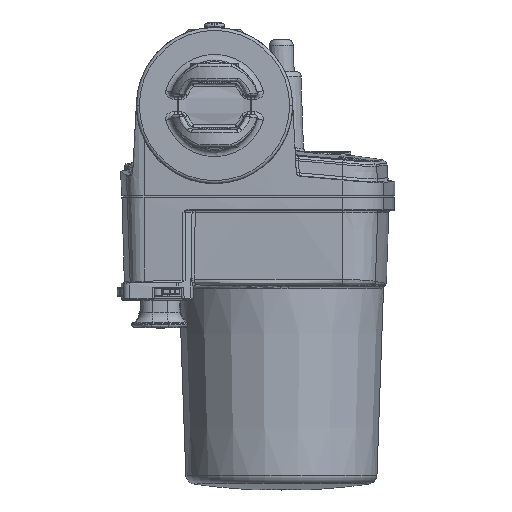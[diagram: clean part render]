
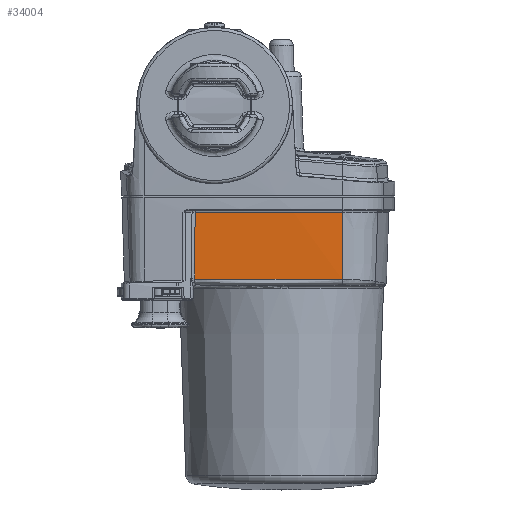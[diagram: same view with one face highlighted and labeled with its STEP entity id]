
A CAD part, top view. The second image highlights one B-rep face of the part: STEP entity #34004.
In plain terms, the highlighted conical face has half-angle 2 degrees and reference radius 597.589 mm.
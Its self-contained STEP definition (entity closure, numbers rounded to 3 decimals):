
#8822=CARTESIAN_POINT('',(-6.449,-35.483,
37.874));
#8851=CARTESIAN_POINT('',(-6.649,-57.739,
37.092));
#8853=CARTESIAN_POINT('',(5.,-35.483,-560.));
#8854=DIRECTION('',(0.,-1.,0.));
#8855=DIRECTION('',(0.063,0.,0.998));
#8856=AXIS2_PLACEMENT_3D('',#8853,#8854,#8855);
#8858=CARTESIAN_POINT('',(-6.649,-57.739,
37.092));
#8859=CARTESIAN_POINT('',(-6.374,-57.749,
37.097));
#8860=CARTESIAN_POINT('',(-5.827,-57.768,
37.107));
#8861=CARTESIAN_POINT('',(-5.013,-57.795,
37.12));
#8862=CARTESIAN_POINT('',(-4.207,-57.819,
37.132));
#8863=CARTESIAN_POINT('',(-3.408,-57.842,
37.143));
#8864=CARTESIAN_POINT('',(-2.615,-57.863,
37.153));
#8865=CARTESIAN_POINT('',(-1.829,-57.883,
37.162));
#8866=CARTESIAN_POINT('',(-1.049,-57.901,
37.17));
#8867=CARTESIAN_POINT('',(-0.274,-57.918,
37.177));
#8868=CARTESIAN_POINT('',(0.496,-57.933,
37.182));
#8869=CARTESIAN_POINT('',(1.26,-57.947,37.187));
#8870=CARTESIAN_POINT('',(2.02,-57.96,37.191));
#8871=CARTESIAN_POINT('',(2.775,-57.972,37.194));
#8872=CARTESIAN_POINT('',(3.526,-57.983,37.196));
#8873=CARTESIAN_POINT('',(4.274,-57.993,37.197));
#8874=CARTESIAN_POINT('',(5.017,-58.002,37.197));
#8875=CARTESIAN_POINT('',(5.758,-58.01,37.196));
#8876=CARTESIAN_POINT('',(6.496,-58.017,37.194));
#8877=CARTESIAN_POINT('',(7.23,-58.024,37.192));
#8878=CARTESIAN_POINT('',(7.962,-58.03,37.189));
#8879=CARTESIAN_POINT('',(8.692,-58.035,37.184));
#8880=CARTESIAN_POINT('',(9.42,-58.04,37.179));
#8881=CARTESIAN_POINT('',(10.146,-58.044,37.173));
#8882=CARTESIAN_POINT('',(10.87,-58.048,37.166));
#8883=CARTESIAN_POINT('',(11.593,-58.051,37.159));
#8884=CARTESIAN_POINT('',(12.314,-58.054,37.15));
#8885=CARTESIAN_POINT('',(13.035,-58.056,37.141));
#8886=CARTESIAN_POINT('',(13.754,-58.058,37.131));
#8887=CARTESIAN_POINT('',(14.472,-58.06,37.12));
#8888=CARTESIAN_POINT('',(15.19,-58.061,37.108));
#8889=CARTESIAN_POINT('',(15.907,-58.063,37.095));
#8890=CARTESIAN_POINT('',(16.624,-58.064,37.082));
#8891=CARTESIAN_POINT('',(17.34,-58.065,37.067));
#8892=CARTESIAN_POINT('',(18.056,-58.065,37.052));
#8893=CARTESIAN_POINT('',(18.772,-58.066,37.036));
#8894=CARTESIAN_POINT('',(19.487,-58.067,37.019));
#8895=CARTESIAN_POINT('',(20.203,-58.067,37.001));
#8896=CARTESIAN_POINT('',(20.918,-58.067,36.982));
#8897=CARTESIAN_POINT('',(21.633,-58.067,36.963));
#8898=CARTESIAN_POINT('',(22.348,-58.068,36.943));
#8899=CARTESIAN_POINT('',(23.063,-58.068,36.921));
#8900=CARTESIAN_POINT('',(23.778,-58.068,36.899));
#8901=CARTESIAN_POINT('',(24.493,-58.068,36.876));
#8902=CARTESIAN_POINT('',(25.208,-58.067,36.853));
#8903=CARTESIAN_POINT('',(25.922,-58.067,36.828));
#8904=CARTESIAN_POINT('',(26.637,-58.067,36.803));
#8905=CARTESIAN_POINT('',(27.352,-58.067,36.776));
#8906=CARTESIAN_POINT('',(28.068,-58.066,36.749));
#8907=CARTESIAN_POINT('',(28.783,-58.065,36.721));
#8908=CARTESIAN_POINT('',(29.499,-58.065,36.692));
#8909=CARTESIAN_POINT('',(30.214,-58.064,36.662));
#8910=CARTESIAN_POINT('',(30.93,-58.063,36.632));
#8911=CARTESIAN_POINT('',(31.647,-58.061,36.6));
#8912=CARTESIAN_POINT('',(32.364,-58.06,36.568));
#8913=CARTESIAN_POINT('',(33.082,-58.058,36.534));
#8914=CARTESIAN_POINT('',(33.801,-58.056,36.5));
#8915=CARTESIAN_POINT('',(34.52,-58.053,36.465));
#8916=CARTESIAN_POINT('',(35.241,-58.051,36.429));
#8917=CARTESIAN_POINT('',(35.963,-58.047,36.392));
#8918=CARTESIAN_POINT('',(36.686,-58.044,36.354));
#8919=CARTESIAN_POINT('',(37.411,-58.039,36.315));
#8920=CARTESIAN_POINT('',(38.138,-58.035,36.276));
#8921=CARTESIAN_POINT('',(38.867,-58.029,36.235));
#8922=CARTESIAN_POINT('',(39.598,-58.023,36.193));
#8923=CARTESIAN_POINT('',(40.332,-58.017,36.15));
#8924=CARTESIAN_POINT('',(41.069,-58.009,36.106));
#8925=CARTESIAN_POINT('',(41.808,-58.001,36.062));
#8926=CARTESIAN_POINT('',(42.303,-57.995,36.031));
#8927=CARTESIAN_POINT('',(42.551,-57.992,36.015));
#8929=CARTESIAN_POINT('',(-6.649,-57.739,
37.092));
#8930=CARTESIAN_POINT('',(-6.629,-55.459,
37.172));
#8931=CARTESIAN_POINT('',(-6.587,-50.771,
37.337));
#8932=CARTESIAN_POINT('',(-6.52,-43.442,
37.594));
#8933=CARTESIAN_POINT('',(-6.473,-38.188,
37.779));
#8934=CARTESIAN_POINT('',(-6.449,-35.483,
37.874));
#8994=DIRECTION('',(-0.002,-0.999,-0.035));
#8995=VECTOR('',#8994,22.523);
#8996=CARTESIAN_POINT('',(42.601,-35.483,36.8));
#8997=LINE('',#8996,#8995);
#17817=VERTEX_POINT('',#8851);
#17818=VERTEX_POINT('',#8927);
#17847=VERTEX_POINT('',#8822);
#17850=CARTESIAN_POINT('',(42.601,-35.483,
36.8));
#17851=VERTEX_POINT('',#17850);
#33991=CARTESIAN_POINT('',(5.,-46.775,-560.));
#33992=DIRECTION('',(0.,1.,0.));
#33993=DIRECTION('',(1.,0.,0.));
#33994=AXIS2_PLACEMENT_3D('',#33991,#33992,#33993);
#33995=CONICAL_SURFACE('',#33994,597.589,2.);
#33996=ORIENTED_EDGE('',*,*,#32902,.F.);
#33998=ORIENTED_EDGE('',*,*,#33997,.T.);
#34000=ORIENTED_EDGE('',*,*,#33999,.F.);
#34001=ORIENTED_EDGE('',*,*,#33983,.T.);
#34002=EDGE_LOOP('',(#33996,#33998,#34000,#34001));
#34003=FACE_OUTER_BOUND('',#34002,.F.);
#8857=CIRCLE('',#8856,597.983);
#8928=B_SPLINE_CURVE_WITH_KNOTS('',3,(#8858,#8859,#8860,#8861,#8862,#8863,#8864,
#8865,#8866,#8867,#8868,#8869,#8870,#8871,#8872,#8873,#8874,#8875,#8876,#8877,
#8878,#8879,#8880,#8881,#8882,#8883,#8884,#8885,#8886,#8887,#8888,#8889,#8890,
#8891,#8892,#8893,#8894,#8895,#8896,#8897,#8898,#8899,#8900,#8901,#8902,#8903,
#8904,#8905,#8906,#8907,#8908,#8909,#8910,#8911,#8912,#8913,#8914,#8915,#8916,
#8917,#8918,#8919,#8920,#8921,#8922,#8923,#8924,#8925,#8926,#8927),
.UNSPECIFIED.,.F.,.F.,(4,1,1,1,1,1,1,1,1,1,1,1,1,1,1,1,1,1,1,1,1,1,1,1,1,1,1,1,
1,1,1,1,1,1,1,1,1,1,1,1,1,1,1,1,1,1,1,1,1,1,1,1,1,1,1,1,1,1,1,1,1,1,1,1,1,1,1,
4),(0.,0.015,0.03,0.045,
0.06,0.075,0.09,0.104,
0.119,0.134,0.149,0.164,
0.179,0.194,0.209,0.224,
0.239,0.254,0.269,0.284,
0.299,0.313,0.328,0.343,
0.358,0.373,0.388,0.403,
0.418,0.433,0.448,0.463,
0.478,0.493,0.507,0.522,
0.537,0.552,0.567,0.582,
0.597,0.612,0.627,0.642,
0.657,0.672,0.687,0.701,
0.716,0.731,0.746,0.761,
0.776,0.791,0.806,0.821,
0.836,0.851,0.866,0.881,
0.896,0.91,0.925,0.94,
0.955,0.97,0.985,1.),.UNSPECIFIED.);
#8935=B_SPLINE_CURVE_WITH_KNOTS('',3,(#8929,#8930,#8931,#8932,#8933,#8934),
.UNSPECIFIED.,.F.,.F.,(4,1,1,4),(0.,0.333,0.667,1.),
.UNSPECIFIED.);
#32902=EDGE_CURVE('',#17851,#17847,#8857,.T.);
#33983=EDGE_CURVE('',#17817,#17847,#8935,.T.);
#33997=EDGE_CURVE('',#17851,#17818,#8997,.T.);
#33999=EDGE_CURVE('',#17817,#17818,#8928,.T.);
#34004=ADVANCED_FACE('',(#34003),#33995,.T.);
